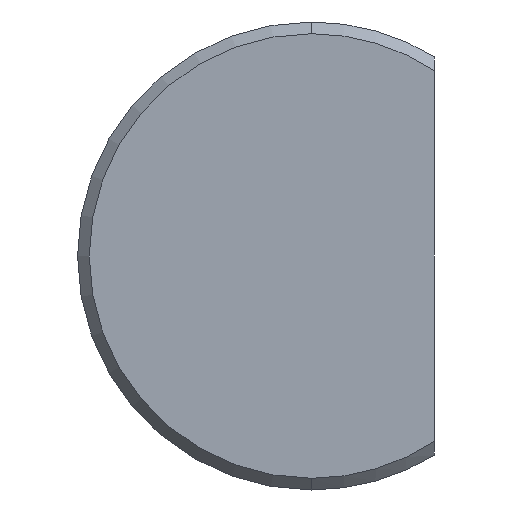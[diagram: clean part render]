
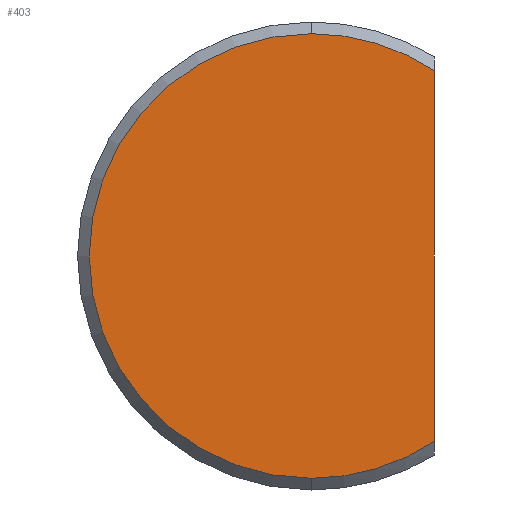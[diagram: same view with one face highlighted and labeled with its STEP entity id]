
A CAD part, front view. The second image highlights one B-rep face of the part: STEP entity #403.
In plain terms, the highlighted planar face has unit normal (0, -1, 0).
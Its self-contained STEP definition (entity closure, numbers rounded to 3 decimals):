
#2 = CARTESIAN_POINT ( 'NONE',  ( 2.1, 0., -3.404 ) ) ;
#33 = ORIENTED_EDGE ( 'NONE', *, *, #565, .T. ) ;
#37 = EDGE_CURVE ( 'NONE', #508, #438, #558, .T. ) ;
#58 = DIRECTION ( 'NONE',  ( 0., 0., -1. ) ) ;
#64 = DIRECTION ( 'NONE',  ( 0., -1., 0. ) ) ;
#73 = ORIENTED_EDGE ( 'NONE', *, *, #76, .T. ) ;
#76 = EDGE_CURVE ( 'NONE', #438, #597, #424, .T. ) ;
#98 = CIRCLE ( 'NONE', #176, 3.8 ) ;
#107 = AXIS2_PLACEMENT_3D ( 'NONE', #299, #244, #430 ) ;
#133 = VERTEX_POINT ( 'NONE', #373 ) ;
#142 = ORIENTED_EDGE ( 'NONE', *, *, #37, .T. ) ;
#146 = CARTESIAN_POINT ( 'NONE',  ( 0., 0., 0. ) ) ;
#148 = CARTESIAN_POINT ( 'NONE',  ( 2.1, 0., -3.167 ) ) ;
#176 = AXIS2_PLACEMENT_3D ( 'NONE', #146, #476, #58 ) ;
#182 = EDGE_LOOP ( 'NONE', ( #33, #270, #142, #73 ) ) ;
#193 = DIRECTION ( 'NONE',  ( 0., 0., 1. ) ) ;
#244 = DIRECTION ( 'NONE',  ( 0., -1., 0. ) ) ;
#255 = CARTESIAN_POINT ( 'NONE',  ( 0., 0., 0. ) ) ;
#270 = ORIENTED_EDGE ( 'NONE', *, *, #468, .T. ) ;
#299 = CARTESIAN_POINT ( 'NONE',  ( 0., 0., 0. ) ) ;
#303 = PLANE ( 'NONE',  #359 ) ;
#346 = CARTESIAN_POINT ( 'NONE',  ( 2.1, 0., 3.167 ) ) ;
#351 = FACE_OUTER_BOUND ( 'NONE', #182, .T. ) ;
#359 = AXIS2_PLACEMENT_3D ( 'NONE', #485, #64, #488 ) ;
#373 = CARTESIAN_POINT ( 'NONE',  ( 0., 0., 3.8 ) ) ;
#403 = ADVANCED_FACE ( 'NONE', ( #351 ), #303, .T. ) ;
#424 = LINE ( 'NONE', #2, #427 ) ;
#427 = VECTOR ( 'NONE', #193, 1000. ) ;
#430 = DIRECTION ( 'NONE',  ( 0., 0., -1. ) ) ;
#438 = VERTEX_POINT ( 'NONE', #148 ) ;
#468 = EDGE_CURVE ( 'NONE', #133, #508, #520, .T. ) ;
#472 = CARTESIAN_POINT ( 'NONE',  ( 0., 0., -3.8 ) ) ;
#474 = AXIS2_PLACEMENT_3D ( 'NONE', #255, #575, #519 ) ;
#476 = DIRECTION ( 'NONE',  ( 0., -1., 0. ) ) ;
#485 = CARTESIAN_POINT ( 'NONE',  ( 0., 0., 0. ) ) ;
#488 = DIRECTION ( 'NONE',  ( 0., 0., -1. ) ) ;
#508 = VERTEX_POINT ( 'NONE', #472 ) ;
#519 = DIRECTION ( 'NONE',  ( 0., 0., -1. ) ) ;
#520 = CIRCLE ( 'NONE', #474, 3.8 ) ;
#558 = CIRCLE ( 'NONE', #107, 3.8 ) ;
#565 = EDGE_CURVE ( 'NONE', #597, #133, #98, .T. ) ;
#575 = DIRECTION ( 'NONE',  ( 0., -1., 0. ) ) ;
#597 = VERTEX_POINT ( 'NONE', #346 ) ;
